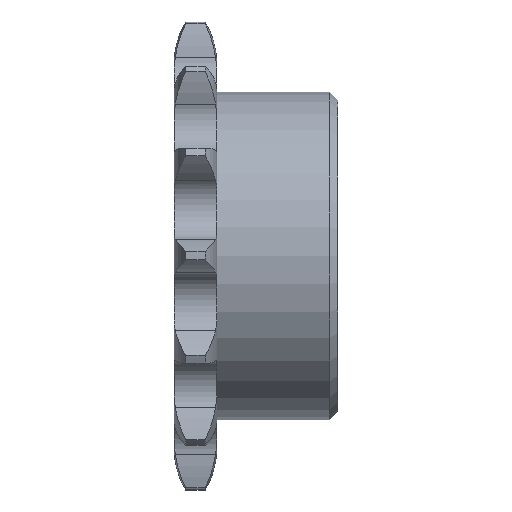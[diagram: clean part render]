
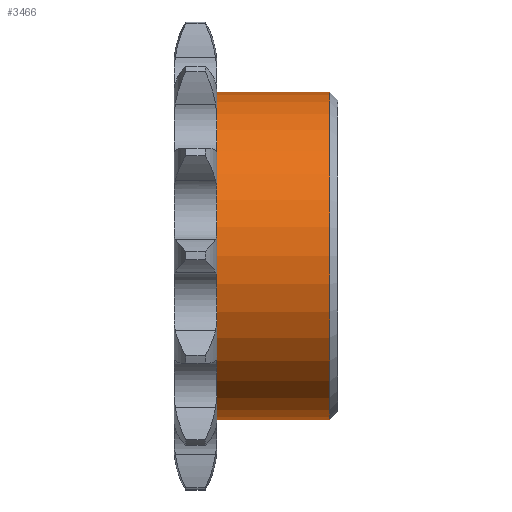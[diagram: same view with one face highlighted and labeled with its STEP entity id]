
A CAD part, top view. The second image highlights one B-rep face of the part: STEP entity #3466.
In plain terms, the highlighted cylindrical face has radius 10 mm (diameter 20 mm), a full revolution.
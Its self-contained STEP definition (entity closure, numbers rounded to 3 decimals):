
#262=CYLINDRICAL_SURFACE('',#3843,10.);
#501=LINE('',#6383,#743);
#743=VECTOR('',#4793,10.);
#926=FACE_OUTER_BOUND('',#1115,.T.);
#1115=EDGE_LOOP('',(#3213,#3214,#3215,#3216));
#1289=CIRCLE('',#3837,10.);
#1292=CIRCLE('',#3844,10.);
#1642=VERTEX_POINT('',#6373);
#1643=VERTEX_POINT('',#6381);
#2164=EDGE_CURVE('',#1642,#1642,#1289,.T.);
#2167=EDGE_CURVE('',#1643,#1643,#1292,.T.);
#2168=EDGE_CURVE('',#1643,#1642,#501,.T.);
#3213=ORIENTED_EDGE('',*,*,#2167,.F.);
#3214=ORIENTED_EDGE('',*,*,#2168,.T.);
#3215=ORIENTED_EDGE('',*,*,#2164,.T.);
#3216=ORIENTED_EDGE('',*,*,#2168,.F.);
#3466=ADVANCED_FACE('',(#926),#262,.T.);
#3837=AXIS2_PLACEMENT_3D('',#6374,#4777,#4778);
#3843=AXIS2_PLACEMENT_3D('',#6380,#4789,#4790);
#3844=AXIS2_PLACEMENT_3D('',#6382,#4791,#4792);
#4777=DIRECTION('center_axis',(1.,0.,0.));
#4778=DIRECTION('ref_axis',(0.,0.,-1.));
#4789=DIRECTION('center_axis',(1.,0.,0.));
#4790=DIRECTION('ref_axis',(0.,1.,0.));
#4791=DIRECTION('center_axis',(1.,0.,0.));
#4792=DIRECTION('ref_axis',(0.,0.,-1.));
#4793=DIRECTION('',(-1.,0.,0.));
#6373=CARTESIAN_POINT('',(2.6,-10.,0.));
#6374=CARTESIAN_POINT('Origin',(2.6,0.,0.));
#6380=CARTESIAN_POINT('Origin',(6.05,0.,0.));
#6381=CARTESIAN_POINT('',(9.5,-10.,0.));
#6382=CARTESIAN_POINT('Origin',(9.5,0.,0.));
#6383=CARTESIAN_POINT('',(6.05,-10.,0.));
